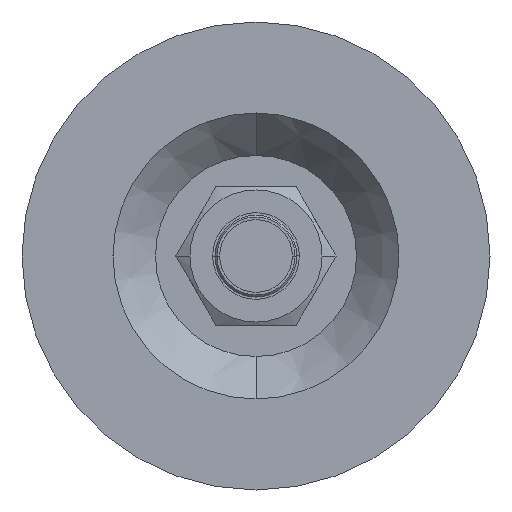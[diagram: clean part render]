
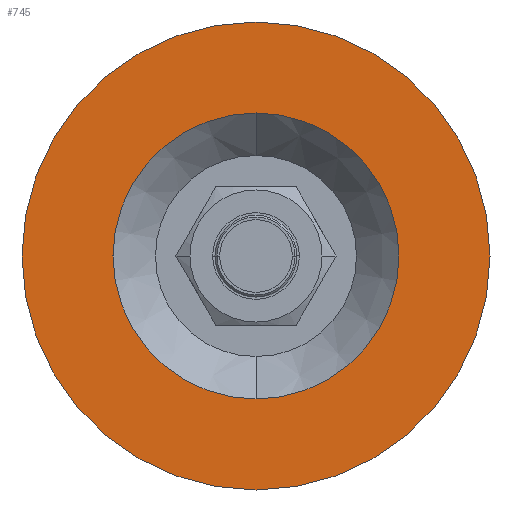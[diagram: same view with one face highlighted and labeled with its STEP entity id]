
A CAD part, front view. The second image highlights one B-rep face of the part: STEP entity #745.
In plain terms, the highlighted planar face has unit normal (0, -1, 0).
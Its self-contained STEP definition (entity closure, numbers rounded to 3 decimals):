
#39 = CARTESIAN_POINT ( 'NONE',  ( 0., -3.2, 0. ) ) ;
#107 = CARTESIAN_POINT ( 'NONE',  ( 0., -3.2, -27. ) ) ;
#235 = CIRCLE ( 'NONE', #5532, 16.5 ) ;
#263 = ORIENTED_EDGE ( 'NONE', *, *, #6446, .F. ) ;
#329 = AXIS2_PLACEMENT_3D ( 'NONE', #2500, #7284, #1891 ) ;
#638 = DIRECTION ( 'NONE',  ( 0., 0., -1. ) ) ;
#745 = ADVANCED_FACE ( 'NONE', ( #4934, #2944 ), #6655, .T. ) ;
#1262 = ORIENTED_EDGE ( 'NONE', *, *, #5614, .F. ) ;
#1265 = DIRECTION ( 'NONE',  ( 0., 0., -1. ) ) ;
#1506 = CARTESIAN_POINT ( 'NONE',  ( 0., -3.2, 0. ) ) ;
#1597 = EDGE_CURVE ( 'NONE', #4044, #3294, #2656, .T. ) ;
#1764 = AXIS2_PLACEMENT_3D ( 'NONE', #1506, #2102, #3971 ) ;
#1891 = DIRECTION ( 'NONE',  ( 0., 0., -1. ) ) ;
#2102 = DIRECTION ( 'NONE',  ( 0., -1., 0. ) ) ;
#2497 = CARTESIAN_POINT ( 'NONE',  ( 0., -3.2, 16.5 ) ) ;
#2500 = CARTESIAN_POINT ( 'NONE',  ( 0., -3.2, 0. ) ) ;
#2656 = CIRCLE ( 'NONE', #1764, 27. ) ;
#2777 = DIRECTION ( 'NONE',  ( 0., -1., 0. ) ) ;
#2944 = FACE_BOUND ( 'NONE', #7213, .T. ) ;
#3033 = EDGE_LOOP ( 'NONE', ( #3562, #4615 ) ) ;
#3294 = VERTEX_POINT ( 'NONE', #3488 ) ;
#3488 = CARTESIAN_POINT ( 'NONE',  ( 0., -3.2, 27. ) ) ;
#3562 = ORIENTED_EDGE ( 'NONE', *, *, #1597, .T. ) ;
#3634 = DIRECTION ( 'NONE',  ( 0., -1., 0. ) ) ;
#3640 = EDGE_CURVE ( 'NONE', #3294, #4044, #7269, .T. ) ;
#3971 = DIRECTION ( 'NONE',  ( 0., 0., -1. ) ) ;
#4044 = VERTEX_POINT ( 'NONE', #107 ) ;
#4333 = DIRECTION ( 'NONE',  ( 0., -1., 0. ) ) ;
#4573 = VERTEX_POINT ( 'NONE', #4734 ) ;
#4615 = ORIENTED_EDGE ( 'NONE', *, *, #3640, .T. ) ;
#4734 = CARTESIAN_POINT ( 'NONE',  ( 0., -3.2, -16.5 ) ) ;
#4890 = AXIS2_PLACEMENT_3D ( 'NONE', #39, #4333, #1265 ) ;
#4934 = FACE_OUTER_BOUND ( 'NONE', #3033, .T. ) ;
#5215 = CARTESIAN_POINT ( 'NONE',  ( 0., -3.2, 0. ) ) ;
#5532 = AXIS2_PLACEMENT_3D ( 'NONE', #5215, #2777, #638 ) ;
#5568 = CIRCLE ( 'NONE', #4890, 16.5 ) ;
#5614 = EDGE_CURVE ( 'NONE', #6376, #4573, #235, .T. ) ;
#5974 = DIRECTION ( 'NONE',  ( 0., 0., -1. ) ) ;
#6376 = VERTEX_POINT ( 'NONE', #2497 ) ;
#6446 = EDGE_CURVE ( 'NONE', #4573, #6376, #5568, .T. ) ;
#6655 = PLANE ( 'NONE',  #7896 ) ;
#7213 = EDGE_LOOP ( 'NONE', ( #263, #1262 ) ) ;
#7269 = CIRCLE ( 'NONE', #329, 27. ) ;
#7284 = DIRECTION ( 'NONE',  ( 0., -1., 0. ) ) ;
#7308 = CARTESIAN_POINT ( 'NONE',  ( 0., -3.2, -27. ) ) ;
#7896 = AXIS2_PLACEMENT_3D ( 'NONE', #7308, #3634, #5974 ) ;
